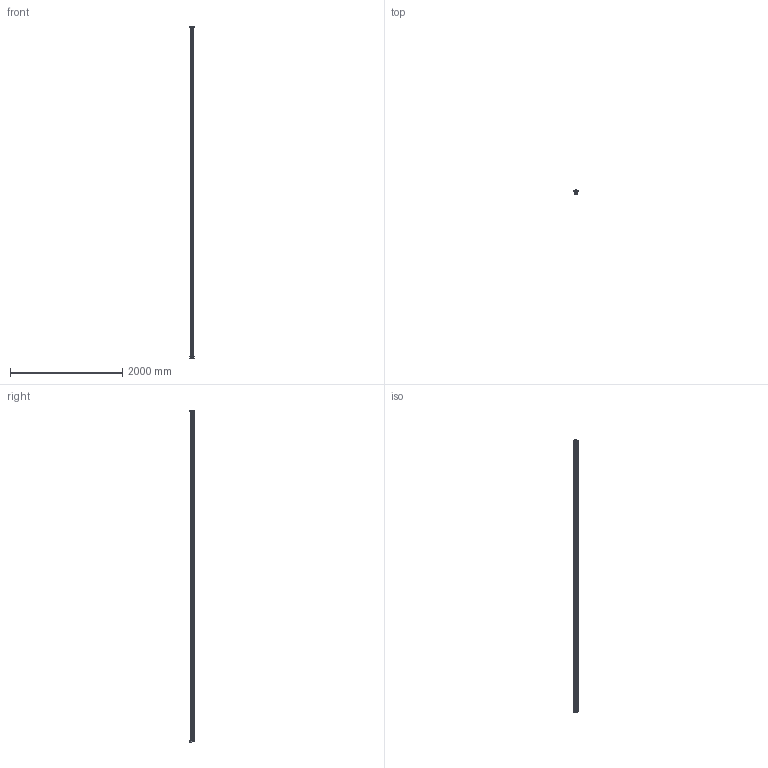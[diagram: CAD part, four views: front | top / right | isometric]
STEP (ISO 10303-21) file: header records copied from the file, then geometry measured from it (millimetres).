
FILE_DESCRIPTION((''),'2;1');
FILE_NAME('ROLLENSCHIENE_C','2021-12-23T04:13:52',('ac91sw'),(''),'CREO PARAMETRIC BY PTC INC, 2020044','CREO PARAMETRIC BY PTC INC, 2020044','');
FILE_SCHEMA(('AUTOMOTIVE_DESIGN { 1 0 10303 214 1 1 1 1 }'));
Length unit declared in the file: millimetre
Products named in the file (9): ROLLENSCHIENE_C_SKEL; ROLLENSCHIENE_C_RAIL1; ROLLENSCHIENE_C_BAND; R161963951_R_Z; R161963952_R_Z; 990000585_Z; 990000584_Z; R161963950_R_Z; ROLLENSCHIENE_C
Assembly tree (9 placements, depth 3):
  ROLLENSCHIENE_C
    ROLLENSCHIENE_C_SKEL
    ROLLENSCHIENE_C_RAIL1
    ROLLENSCHIENE_C_BAND
    R161963950_R_Z  x2
      R161963951_R_Z
      R161963952_R_Z
      990000585_Z
      990000584_Z
Bounding box: 75.18 x 72.85 x 5927.3 mm (x, y, z)
Volume: 15112262.2 mm3; surface area: 2453430.4 mm2
Topology: 10 solids, 10 shells, 699 faces, 1883 edges, 1523 vertices
Faces by surface type: cylinder 410, plane 269, cone 12, torus 8
Entity records: 21800 total; most frequent: DIRECTION 3613, CARTESIAN_POINT 3595, ORIENTED_EDGE 2928, EDGE_CURVE 1464, AXIS2_PLACEMENT_3D 1375, VERTEX_POINT 958, VECTOR 863, LINE 863
